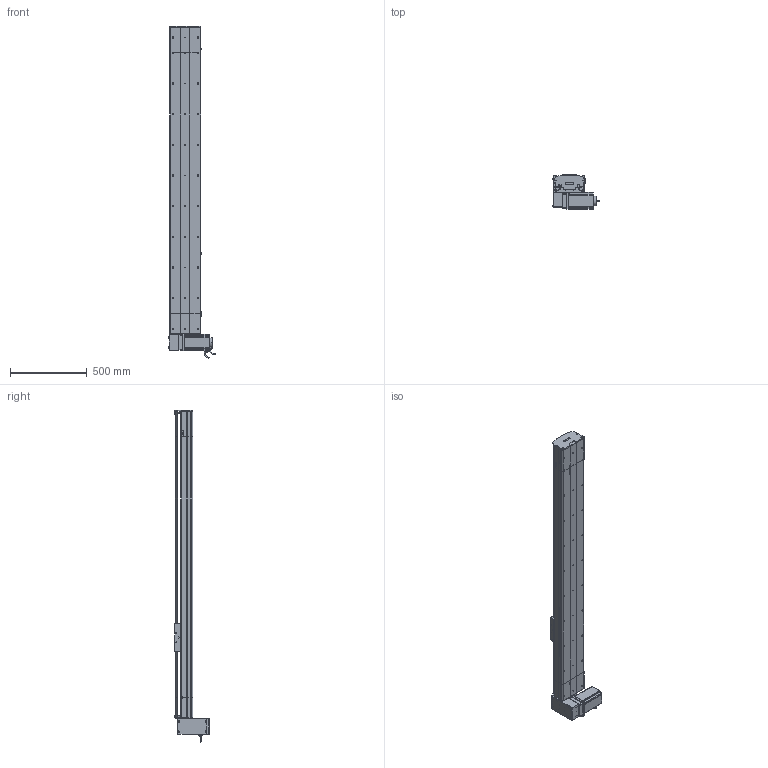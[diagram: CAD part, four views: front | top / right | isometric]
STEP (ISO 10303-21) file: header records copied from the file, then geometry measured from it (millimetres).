
FILE_DESCRIPTION (( 'STEP AP214' ), '1' );
FILE_NAME ('D20 TBH RU S1700.STEP', '2010-07-01T07:31:42', ( 'Conseil Régional Haute-Normandie' ), ( 'Conseil Régional Haute-Normandie' ), 'SwSTEP 2.0', 'SolidWorks 2010', '' );
FILE_SCHEMA (( 'AUTOMOTIVE_DESIGN' ));
Length unit declared in the file: millimetre
Products named in the file (40): head RU_Default; rail + couroie  D20 S1700; corpl head D20_Default; couvercle D20 S1700_Default; Couroie tail D20_Default; vis M8 L12_Default; clavette; Conecteur_Default; poulie tail D20_Default; corpl tail D20 +100_Default; tail D20+100_Default; Conecteur2_Default; codeur 110BLDC170A-630x; corps 110BLDC170A-630x; avant 110BLDC170A-630x; Moteur motionking 110BLDC170A-640x; vis M5 L70_Default; vis M5 L5_Default; plaque de  bout tail D20_Default; couroie_Default; cache D20_Default; Plaque racord D20LH_Default; Renvoi RU D20_Default; cache arbre D20_Default; couvercle head D20_Default; rail head D20; plaque de  bout head D20B RU_Default; poulie head D20_Default; rail tail D20; vis M5 L8 90°_Default; vis M5 L12_Default; tete d''axe poulie D20B; vis M5 L25_Default; couvercle tail D20_Default; Chariot D20B; chariot D20B_Default; D20 TBH RU S1700; corp D20 S1700_Default; Course B L1700_Default; guide D20B
Assembly tree (71 placements, depth 4):
  D20 TBH RU S1700
    head RU_Default
      vis M5 L12_Default  x10
      vis M5 L25_Default  x2
      plaque de  bout head D20B RU_Default
      vis M5 L70_Default  x4
      rail head D20
      vis M8 L12_Default  x4
      cache arbre D20_Default
      Plaque racord D20LH_Default
      vis M5 L5_Default  x4
      couroie_Default
      poulie head D20_Default
      Renvoi RU D20_Default
      cache D20_Default  x2
      Moteur motionking 110BLDC170A-640x
        clavette
        Conecteur_Default
        codeur 110BLDC170A-630x
        Conecteur2_Default
        corps 110BLDC170A-630x
        avant 110BLDC170A-630x
      couvercle head D20_Default
      corpl head D20_Default
    tail D20+100_Default
      vis M5 L25_Default  x2
      vis M5 L8 90°_Default  x2
      couvercle tail D20_Default
      vis M5 L12_Default  x4
      plaque de  bout tail D20_Default
      Couroie tail D20_Default
      poulie tail D20_Default
      corpl tail D20 +100_Default
      rail tail D20
      tete d''axe poulie D20B
    Course B L1700_Default
      rail + couroie  D20 S1700
      corp D20 S1700_Default
      couvercle D20 S1700_Default
    chariot D20B_Default
      Chariot D20B
      vis M5 L12_Default  x4
      guide D20B  x2
Bounding box: 304.2 x 223.2 x 2165 mm (x, y, z)
Volume: 18202857.3 mm3; surface area: 4345530.6 mm2
Topology: 95 solids, 95 shells, 2765 faces, 6999 edges, 4517 vertices
Faces by surface type: plane 1630, cylinder 811, bspline 136, cone 99, torus 89
Entity records: 87342 total; most frequent: CARTESIAN_POINT 27937, ORIENTED_EDGE 10654, DIRECTION 10064, EDGE_CURVE 5327, VERTEX_POINT 3503, VECTOR 3464, LINE 3464, AXIS2_PLACEMENT_3D 3300
